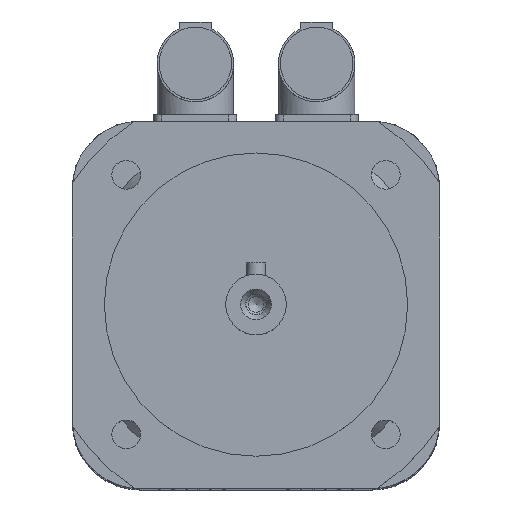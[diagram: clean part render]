
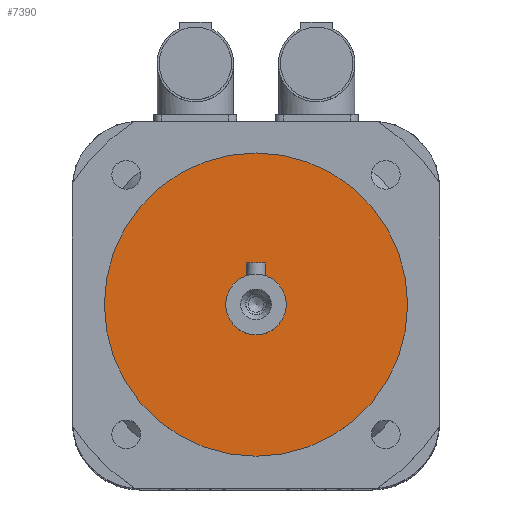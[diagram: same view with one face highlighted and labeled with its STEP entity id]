
A CAD part, top view. The second image highlights one B-rep face of the part: STEP entity #7390.
In plain terms, the highlighted planar face has unit normal (0, 0, 1).
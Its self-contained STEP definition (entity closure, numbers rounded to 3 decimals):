
#1603=PLANE('',#7889);
#2052=FACE_BOUND('',#2627,.T.);
#2146=FACE_OUTER_BOUND('',#2626,.T.);
#2626=EDGE_LOOP('',(#5423));
#2627=EDGE_LOOP('',(#5424));
#3132=CIRCLE('',#7888,9.5);
#3133=CIRCLE('',#7890,47.5);
#3541=VERTEX_POINT('',#11268);
#3542=VERTEX_POINT('',#11271);
#4274=EDGE_CURVE('',#3541,#3541,#3132,.T.);
#4275=EDGE_CURVE('',#3542,#3542,#3133,.T.);
#5423=ORIENTED_EDGE('',*,*,#4275,.F.);
#5424=ORIENTED_EDGE('',*,*,#4274,.T.);
#7390=ADVANCED_FACE('',(#2146,#2052),#1603,.T.);
#7888=AXIS2_PLACEMENT_3D('',#11269,#8858,#8859);
#7889=AXIS2_PLACEMENT_3D('',#11270,#8860,#8861);
#7890=AXIS2_PLACEMENT_3D('',#11272,#8862,#8863);
#8858=DIRECTION('center_axis',(0.,0.,-1.));
#8859=DIRECTION('ref_axis',(1.,0.,0.));
#8860=DIRECTION('center_axis',(0.,0.,1.));
#8861=DIRECTION('ref_axis',(1.,0.,0.));
#8862=DIRECTION('center_axis',(0.,0.,-1.));
#8863=DIRECTION('ref_axis',(1.,0.,0.));
#11268=CARTESIAN_POINT('',(0.,9.5,288.));
#11269=CARTESIAN_POINT('Origin',(0.,0.,288.));
#11270=CARTESIAN_POINT('Origin',(0.,47.5,288.));
#11271=CARTESIAN_POINT('',(0.,47.5,288.));
#11272=CARTESIAN_POINT('Origin',(0.,0.,288.));
